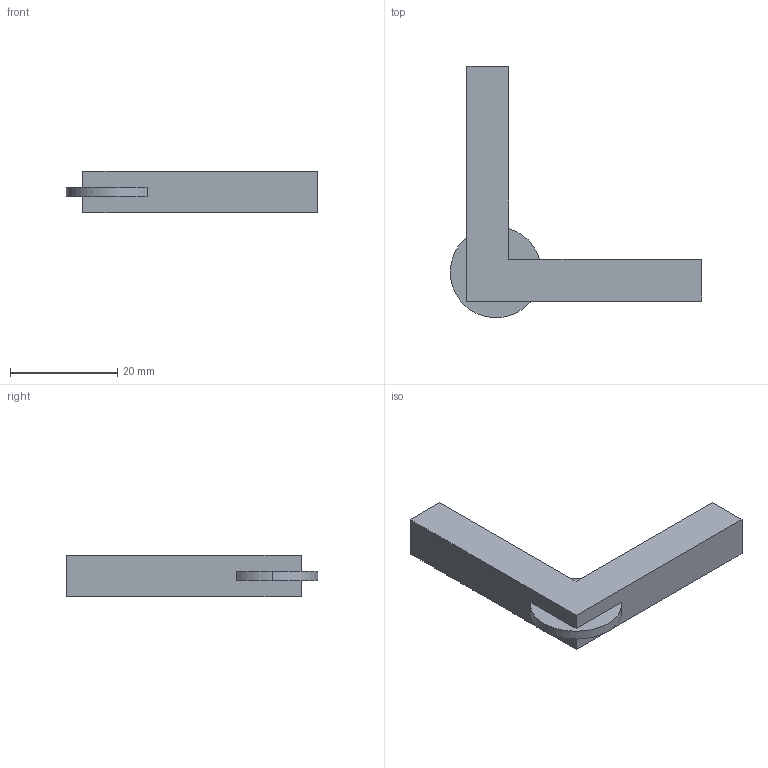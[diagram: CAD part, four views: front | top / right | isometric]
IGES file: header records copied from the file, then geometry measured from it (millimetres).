
Start section: Data from Parasolid IGES Translator 20.0.26, Copyright(c) 2006 Siemens P LM Software. All Rights Reserved.
Global section: file name: 9298861.igs; native system: By Siemens PLM Incorporated; preprocessor: XPlus GENERIC/IGES 20.0.26; author: Noname; organization: Noname; date: 20210825.123613; units: millimetre
Bounding box: 46.9 x 46.88 x 7.8 mm (x, y, z)
Surface area: 2770.3 mm2 (no closed solid volume)
Topology: 0 solids, 0 shells, 15 faces, 78 edges, 78 vertices
Faces by surface type: extrusion 12, revolution 3
